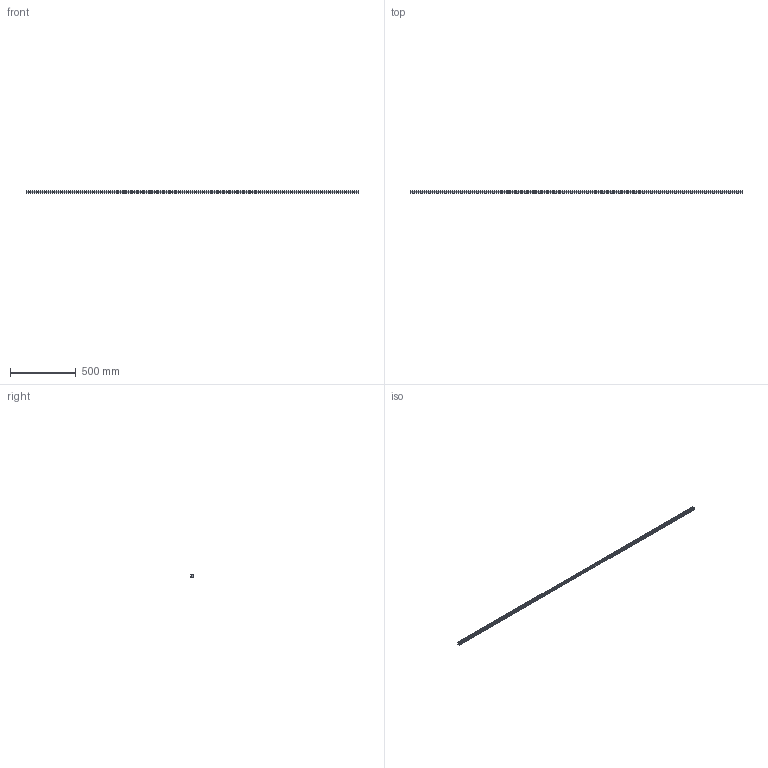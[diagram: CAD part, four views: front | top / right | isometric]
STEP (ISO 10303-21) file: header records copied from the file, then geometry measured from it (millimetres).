
FILE_DESCRIPTION (( 'STEP AP203' ), '1' );
FILE_NAME ('L1018.20R-2520.step', '2023-08-06T09:13:06', ( '' ), ( '' ), 'SwSTEP 2.0', 'SolidWorks 2019', '' );
FILE_SCHEMA (( 'CONFIG_CONTROL_DESIGN' ));
Length unit declared in the file: millimetre
Products named in the file (1): L1018.20R-2520
Bounding box: 2520 x 19.3 x 20 mm (x, y, z)
Volume: 799163.2 mm3; surface area: 213316.9 mm2
Topology: 1 solids, 1 shells, 407 faces, 921 edges, 516 vertices
Faces by surface type: cylinder 171, cone 168, plane 68
Entity records: 10826 total; most frequent: DIRECTION 2079, CARTESIAN_POINT 1761, ORIENTED_EDGE 1674, EDGE_CURVE 837, AXIS2_PLACEMENT_3D 834, VERTEX_POINT 516, EDGE_LOOP 491, CIRCLE 426
